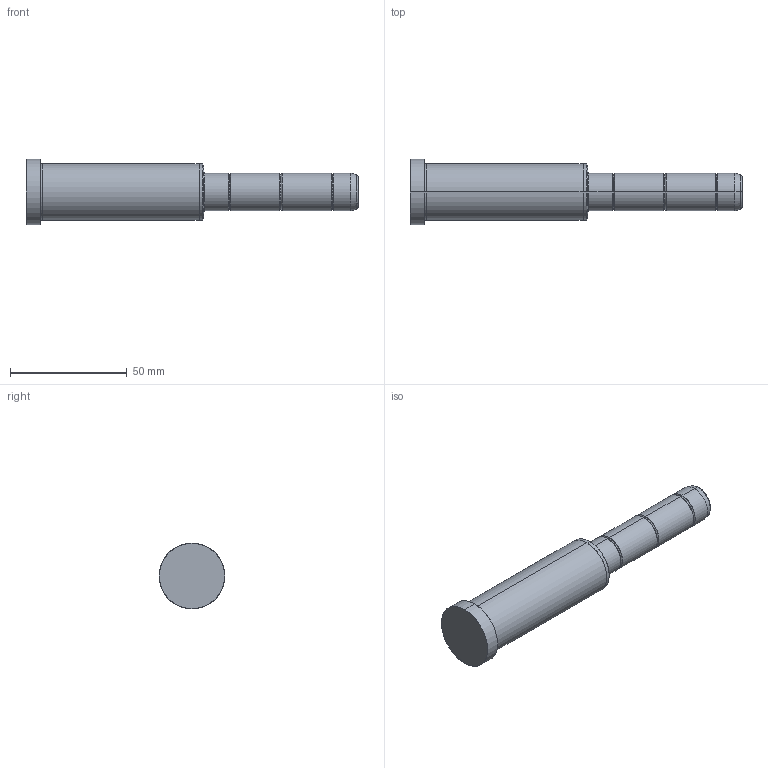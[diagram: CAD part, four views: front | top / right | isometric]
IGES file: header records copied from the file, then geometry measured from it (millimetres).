
Start section: SolidWorks IGES file using analytic representation for surfaces
Global section: file name: C:\Documents and Settings\kalite-mail\Desktop\IGS\D02\16\D02 - 16x76x66.IGS; native system: SolidWorks 2008; preprocessor: SolidWorks 2008; author: kalite-mail; date: 080616.144953; units: millimetre
Bounding box: 142 x 28 x 28 mm (x, y, z)
Surface area: 10352.6 mm2 (no closed solid volume)
Topology: 0 solids, 0 shells, 42 faces, 528 edges, 528 vertices
Faces by surface type: bspline 22, revolution 20
